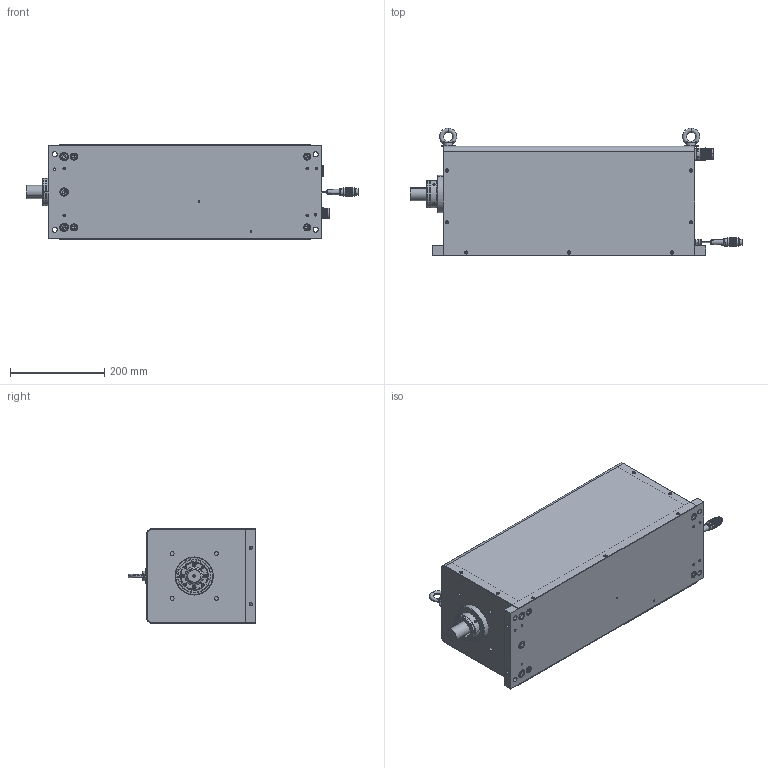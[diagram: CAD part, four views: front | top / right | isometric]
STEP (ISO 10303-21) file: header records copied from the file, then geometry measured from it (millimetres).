
FILE_DESCRIPTION (( 'STEP AP203' ), '1' );
FILE_NAME ('UD5M2000-008-NGNG2 Kundenmodell.STEP', '2020-04-29T06:58:24', ( '' ), ( '' ), 'SwSTEP 2.0', 'SolidWorks 2016', '' );
FILE_SCHEMA (( 'CONFIG_CONTROL_DESIGN' ));
Products named in the file (2): UD5M2000-008-NGNG2 Kundenmodell
Bounding box: 705 x 270.67 x 200 mm (x, y, z)
Volume: 4502848.1 mm3; surface area: 1297039.6 mm2
Topology: 57 solids, 57 shells, 7311 faces, 17504 edges, 10338 vertices
Faces by surface type: plane 4503, cylinder 1488, bspline 700, cone 514, torus 90, sphere 16
Entity records: 239748 total; most frequent: CARTESIAN_POINT 83901, ORIENTED_EDGE 34608, DIRECTION 29077, EDGE_CURVE 17304, LINE 10713, VECTOR 10713, VERTEX_POINT 10338, AXIS2_PLACEMENT_3D 9182
